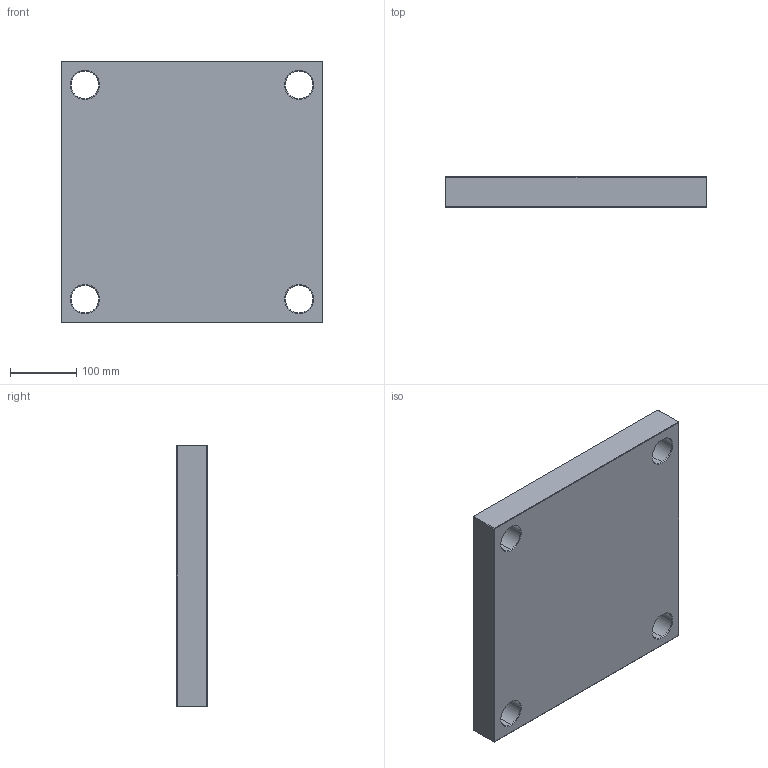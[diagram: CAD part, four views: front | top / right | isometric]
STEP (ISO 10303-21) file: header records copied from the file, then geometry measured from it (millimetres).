
FILE_DESCRIPTION (( 'STEP AP214' ), '1' );
FILE_NAME ('PC-396x396x46.STEP', '2020-04-21T17:13:59', ( 'August' ), ( '' ), 'SwSTEP 2.0', 'SolidWorks 2018', '' );
FILE_SCHEMA (( 'AUTOMOTIVE_DESIGN' ));
Length unit declared in the file: millimetre
Products named in the file (1): PC-396x396x46
Bounding box: 396 x 46 x 396 mm (x, y, z)
Volume: 6925471.5 mm3; surface area: 402461 mm2
Topology: 1 solids, 1 shells, 82 faces, 168 edges, 96 vertices
Faces by surface type: plane 34, cone 24, cylinder 24
Entity records: 2170 total; most frequent: DIRECTION 406, CARTESIAN_POINT 347, ORIENTED_EDGE 336, EDGE_CURVE 168, AXIS2_PLACEMENT_3D 155, EDGE_LOOP 98, LINE 96, VERTEX_POINT 96
